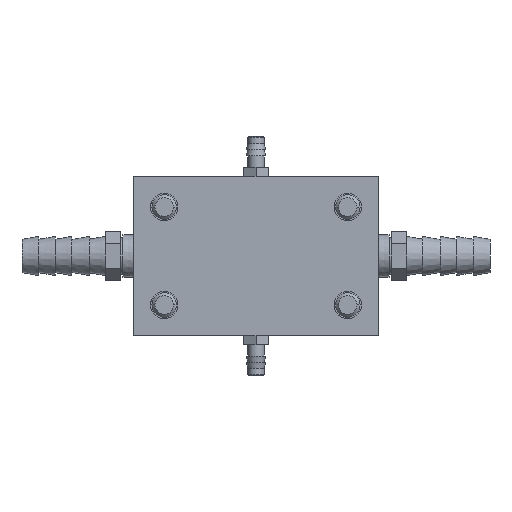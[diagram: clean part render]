
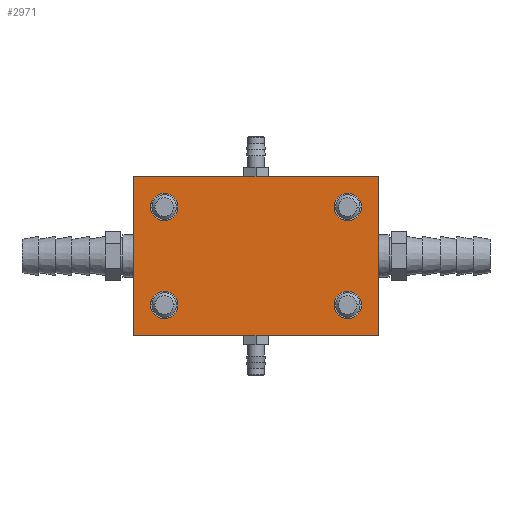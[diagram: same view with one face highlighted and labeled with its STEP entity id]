
A CAD part, left-side view. The second image highlights one B-rep face of the part: STEP entity #2971.
In plain terms, the highlighted planar face has unit normal (-1, 0, 0).
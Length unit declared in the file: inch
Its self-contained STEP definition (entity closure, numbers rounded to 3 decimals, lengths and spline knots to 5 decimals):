
#2709=CARTESIAN_POINT('',(-3.25,-0.9375,-0.5));
#2710=DIRECTION('',(1.,0.,0.));
#2711=DIRECTION('',(0.,-1.,0.));
#2712=AXIS2_PLACEMENT_3D('',#2709,#2710,#2711);
#2714=CARTESIAN_POINT('',(-3.25,-0.9375,-0.5));
#2715=DIRECTION('',(1.,0.,0.));
#2716=DIRECTION('',(0.,1.,0.));
#2717=AXIS2_PLACEMENT_3D('',#2714,#2715,#2716);
#2719=CARTESIAN_POINT('',(-3.25,0.9375,-0.5));
#2720=DIRECTION('',(1.,0.,0.));
#2721=DIRECTION('',(0.,-1.,0.));
#2722=AXIS2_PLACEMENT_3D('',#2719,#2720,#2721);
#2724=CARTESIAN_POINT('',(-3.25,0.9375,-0.5));
#2725=DIRECTION('',(1.,0.,0.));
#2726=DIRECTION('',(0.,1.,0.));
#2727=AXIS2_PLACEMENT_3D('',#2724,#2725,#2726);
#2729=CARTESIAN_POINT('',(-3.25,0.9375,0.5));
#2730=DIRECTION('',(1.,0.,0.));
#2731=DIRECTION('',(0.,-1.,0.));
#2732=AXIS2_PLACEMENT_3D('',#2729,#2730,#2731);
#2734=CARTESIAN_POINT('',(-3.25,0.9375,0.5));
#2735=DIRECTION('',(1.,0.,0.));
#2736=DIRECTION('',(0.,1.,0.));
#2737=AXIS2_PLACEMENT_3D('',#2734,#2735,#2736);
#2739=CARTESIAN_POINT('',(-3.25,-0.9375,0.5));
#2740=DIRECTION('',(1.,0.,0.));
#2741=DIRECTION('',(0.,-1.,0.));
#2742=AXIS2_PLACEMENT_3D('',#2739,#2740,#2741);
#2744=CARTESIAN_POINT('',(-3.25,-0.9375,0.5));
#2745=DIRECTION('',(1.,0.,0.));
#2746=DIRECTION('',(0.,1.,0.));
#2747=AXIS2_PLACEMENT_3D('',#2744,#2745,#2746);
#2841=DIRECTION('',(0.,0.,-1.));
#2842=VECTOR('',#2841,1.625);
#2843=CARTESIAN_POINT('',(-3.25,-1.25,0.8125));
#2844=LINE('',#2843,#2842);
#2849=DIRECTION('',(0.,1.,0.));
#2850=VECTOR('',#2849,2.5);
#2851=CARTESIAN_POINT('',(-3.25,-1.25,-0.8125));
#2852=LINE('',#2851,#2850);
#2853=DIRECTION('',(0.,0.,1.));
#2854=VECTOR('',#2853,1.625);
#2855=CARTESIAN_POINT('',(-3.25,1.25,-0.8125));
#2856=LINE('',#2855,#2854);
#2861=DIRECTION('',(0.,-1.,0.));
#2862=VECTOR('',#2861,2.5);
#2863=CARTESIAN_POINT('',(-3.25,1.25,0.8125));
#2864=LINE('',#2863,#2862);
#2873=CARTESIAN_POINT('',(-3.25,-1.25,-0.8125));
#2874=CARTESIAN_POINT('',(-3.25,1.25,-0.8125));
#2875=VERTEX_POINT('',#2873);
#2876=VERTEX_POINT('',#2874);
#2879=CARTESIAN_POINT('',(-3.25,-1.25,0.8125));
#2880=VERTEX_POINT('',#2879);
#2881=CARTESIAN_POINT('',(-3.25,1.25,0.8125));
#2882=VERTEX_POINT('',#2881);
#2885=CARTESIAN_POINT('',(-3.25,1.07813,0.5));
#2887=VERTEX_POINT('',#2885);
#2889=CARTESIAN_POINT('',(-3.25,0.79688,0.5));
#2891=VERTEX_POINT('',#2889);
#2893=CARTESIAN_POINT('',(-3.25,-0.79688,0.5));
#2895=VERTEX_POINT('',#2893);
#2897=CARTESIAN_POINT('',(-3.25,-1.07813,0.5));
#2899=VERTEX_POINT('',#2897);
#2901=CARTESIAN_POINT('',(-3.25,1.07813,-0.5));
#2903=VERTEX_POINT('',#2901);
#2905=CARTESIAN_POINT('',(-3.25,0.79688,-0.5));
#2907=VERTEX_POINT('',#2905);
#2909=CARTESIAN_POINT('',(-3.25,-0.79688,-0.5));
#2911=VERTEX_POINT('',#2909);
#2913=CARTESIAN_POINT('',(-3.25,-1.07813,-0.5));
#2915=VERTEX_POINT('',#2913);
#2933=CARTESIAN_POINT('',(-3.25,0.,0.));
#2934=DIRECTION('',(1.,0.,0.));
#2935=DIRECTION('',(0.,-1.,0.));
#2936=AXIS2_PLACEMENT_3D('',#2933,#2934,#2935);
#2937=PLANE('',#2936);
#2939=ORIENTED_EDGE('',*,*,#2938,.T.);
#2941=ORIENTED_EDGE('',*,*,#2940,.T.);
#2943=ORIENTED_EDGE('',*,*,#2942,.T.);
#2945=ORIENTED_EDGE('',*,*,#2944,.T.);
#2946=EDGE_LOOP('',(#2939,#2941,#2943,#2945));
#2947=FACE_OUTER_BOUND('',#2946,.F.);
#2949=ORIENTED_EDGE('',*,*,#2948,.F.);
#2951=ORIENTED_EDGE('',*,*,#2950,.F.);
#2952=EDGE_LOOP('',(#2949,#2951));
#2953=FACE_BOUND('',#2952,.F.);
#2954=ORIENTED_EDGE('',*,*,#2922,.F.);
#2956=ORIENTED_EDGE('',*,*,#2955,.F.);
#2957=EDGE_LOOP('',(#2954,#2956));
#2958=FACE_BOUND('',#2957,.F.);
#2960=ORIENTED_EDGE('',*,*,#2959,.F.);
#2962=ORIENTED_EDGE('',*,*,#2961,.F.);
#2963=EDGE_LOOP('',(#2960,#2962));
#2964=FACE_BOUND('',#2963,.F.);
#2966=ORIENTED_EDGE('',*,*,#2965,.F.);
#2968=ORIENTED_EDGE('',*,*,#2967,.F.);
#2969=EDGE_LOOP('',(#2966,#2968));
#2970=FACE_BOUND('',#2969,.F.);
#2713=CIRCLE('',#2712,0.14063);
#2718=CIRCLE('',#2717,0.14063);
#2723=CIRCLE('',#2722,0.14063);
#2728=CIRCLE('',#2727,0.14063);
#2733=CIRCLE('',#2732,0.14063);
#2738=CIRCLE('',#2737,0.14063);
#2743=CIRCLE('',#2742,0.14063);
#2748=CIRCLE('',#2747,0.14063);
#2922=EDGE_CURVE('',#2891,#2887,#2733,.T.);
#2938=EDGE_CURVE('',#2875,#2876,#2852,.T.);
#2940=EDGE_CURVE('',#2876,#2882,#2856,.T.);
#2942=EDGE_CURVE('',#2882,#2880,#2864,.T.);
#2944=EDGE_CURVE('',#2880,#2875,#2844,.T.);
#2948=EDGE_CURVE('',#2907,#2903,#2723,.T.);
#2950=EDGE_CURVE('',#2903,#2907,#2728,.T.);
#2955=EDGE_CURVE('',#2887,#2891,#2738,.T.);
#2959=EDGE_CURVE('',#2899,#2895,#2743,.T.);
#2961=EDGE_CURVE('',#2895,#2899,#2748,.T.);
#2965=EDGE_CURVE('',#2915,#2911,#2713,.T.);
#2967=EDGE_CURVE('',#2911,#2915,#2718,.T.);
#2971=ADVANCED_FACE('',(#2947,#2953,#2958,#2964,#2970),#2937,.F.);
